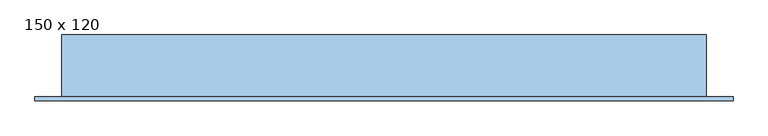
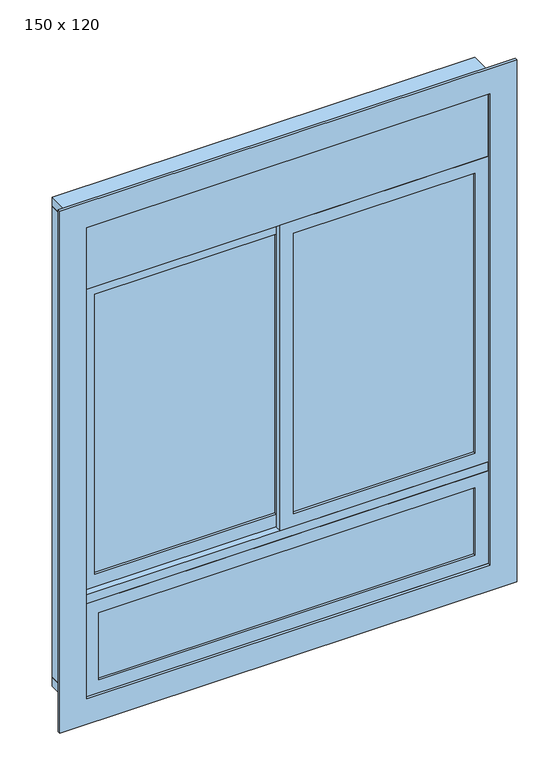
"""IFC4 building model written with IfcOpenShell, lengths in millimetres: window geometry, JANELA COM ESQUADRIA DE CORRER - 2 FOLHAS + BANDEIRA FIXA - 1 FOLHA + PERSIANA INTEGRADA : 150 x 120."""

from ifc_helpers import new_model, si_unit, frame, origin, place, context, project, spatial, polyline, outline, extrude, source, transform, mapped, element, save


def window_150_x_120_5ce5c8ce(model_context):
    return source(origin(), model_context, "Body", "SweptSolid", [
        extrude(outline(polyline([(829.4035509, -60.3758395), (829.4035509, -66.3758395), (-570.5964491, -66.3758395), (-570.5964491, -60.3758395), (829.4035509, -60.3758395)])), frame((0.0, 0.0, 650.0), z_axis=(0.0, 0.0, 1.0), x_axis=(1.0, 0.0, 0.0)), (0.0, 0.0, 1.0), 265.0),
        extrude(outline(polyline([(965.0, 879.4035509), (965.0, -620.5964491), (600.0, -620.5964491), (600.0, 879.4035509), (965.0, 879.4035509)]), holes=[polyline([(915.0, 829.4035509), (650.0, 829.4035509), (650.0, -570.5964491), (915.0, -570.5964491), (915.0, 829.4035509)])]), frame((0.0, -75.8758395, 0.0), z_axis=(0.0, 1.0, 0.0), x_axis=(0.0, 0.0, 1.0)), (0.0, 0.0, 1.0), 25.0),
        extrude(outline(polyline([(-570.5964491, -35.3758395), (104.4035509, -35.3758395), (104.4035509, -41.3758395), (-570.5964491, -41.3758395), (-570.5964491, -35.3758395)])), frame((0.0, 0.0, 1050.0), z_axis=(0.0, 0.0, 1.0), x_axis=(1.0, 0.0, 0.0)), (0.0, 0.0, 1.0), 1100.0),
        extrude(outline(polyline([(2200.0, -620.5964491), (1000.0, -620.5964491), (1000.0, 154.4035509), (2200.0, 154.4035509), (2200.0, -620.5964491)]), holes=[polyline([(2150.0, -570.5964491), (2150.0, 104.4035509), (1050.0, 104.4035509), (1050.0, -570.5964491), (2150.0, -570.5964491)])]), frame((0.0, -50.8758395, 0.0), z_axis=(0.0, 1.0, 0.0), x_axis=(0.0, 0.0, 1.0)), (0.0, 0.0, 1.0), 25.0),
        extrude(outline(polyline([(829.4035509, -60.3758395), (829.4035509, -66.3758395), (154.4035509, -66.3758395), (154.4035509, -60.3758395), (829.4035509, -60.3758395)])), frame((0.0, 0.0, 1050.0), z_axis=(0.0, 0.0, 1.0), x_axis=(1.0, 0.0, 0.0)), (0.0, 0.0, 1.0), 1100.0),
        extrude(outline(polyline([(2200.0, 879.4035509), (2200.0, 104.4035509), (1000.0, 104.4035509), (1000.0, 879.4035509), (2200.0, 879.4035509)]), holes=[polyline([(2150.0, 829.4035509), (1050.0, 829.4035509), (1050.0, 154.4035509), (2150.0, 154.4035509), (2150.0, 829.4035509)])]), frame((0.0, -75.8758395, 0.0), z_axis=(0.0, 1.0, 0.0), x_axis=(0.0, 0.0, 1.0)), (0.0, 0.0, 1.0), 25.0),
        extrude(outline(polyline([(500.0, -720.5964491), (500.0, 979.4035509), (2550.0, 979.4035509), (2550.0, -720.5964491), (500.0, -720.5964491)]), holes=[polyline([(2450.0, -620.5964491), (2450.0, 879.4035509), (600.0, 879.4035509), (600.0, -620.5964491), (2450.0, -620.5964491)])]), frame((0.0, -85.8758395, 0.0), z_axis=(0.0, 1.0, 0.0), x_axis=(0.0, 0.0, 1.0)), (0.0, 0.0, 1.0), 10.0),
        extrude(outline(polyline([(-655.5964491, 74.1241605), (-620.5964491, 74.1241605), (-620.5964491, -75.8758395), (-655.5964491, -75.8758395), (-655.5964491, 74.1241605)])), frame((0.0, 0.0, 600.0), z_axis=(0.0, 0.0, 1.0), x_axis=(1.0, 0.0, 0.0)), (0.0, 0.0, 1.0), 1850.0),
        extrude(outline(polyline([(879.4035509, 74.1241605), (914.4035509, 74.1241605), (914.4035509, -75.8758395), (879.4035509, -75.8758395), (879.4035509, 74.1241605)])), frame((0.0, 0.0, 600.0), z_axis=(0.0, 0.0, 1.0), x_axis=(1.0, 0.0, 0.0)), (0.0, 0.0, 1.0), 1850.0),
        extrude(outline(polyline([(879.4035509, -75.8758395), (-620.5964491, -75.8758395), (-620.5964491, -15.8758395), (879.4035509, -15.8758395), (879.4035509, -75.8758395)])), frame((0.0, 0.0, 965.0), z_axis=(0.0, 0.0, 1.0), x_axis=(1.0, 0.0, 0.0)), (0.0, 0.0, 1.0), 35.0),
        extrude(outline(polyline([(-655.5964491, 74.1241605), (914.4035509, 74.1241605), (914.4035509, -75.8758395), (-655.5964491, -75.8758395), (-655.5964491, 74.1241605)])), frame((0.0, 0.0, 565.0), z_axis=(0.0, 0.0, 1.0), x_axis=(1.0, 0.0, 0.0)), (0.0, 0.0, 1.0), 35.0),
        extrude(outline(polyline([(879.4035509, 53.1241605), (879.4035509, 45.1241605), (-620.5964491, 45.1241605), (-620.5964491, 53.1241605), (879.4035509, 53.1241605)])), frame((0.0, 0.0, 2330.0), z_axis=(0.0, 0.0, 1.0), x_axis=(1.0, 0.0, 0.0)), (0.0, 0.0, 1.0), 120.0),
        extrude(outline(polyline([(879.4035509, 69.1241605), (879.4035509, 64.1241605), (-620.5964491, 64.1241605), (-620.5964491, 69.1241605), (879.4035509, 69.1241605)])), frame((0.0, 0.0, 2200.0), z_axis=(0.0, 0.0, 1.0), x_axis=(1.0, 0.0, 0.0)), (0.0, 0.0, 1.0), 250.0),
        extrude(outline(polyline([(-75.8758395, 2200.0), (-75.8758395, 2450.0), (-70.8758395, 2450.0), (-70.8758395, 2205.0), (34.1241605, 2205.0), (34.1241605, 2200.0), (-75.8758395, 2200.0)])), frame((-620.5964491, 0.0, 0.0), z_axis=(1.0, 0.0, 0.0), x_axis=(0.0, 1.0, 0.0)), (0.0, 0.0, 1.0), 1500.0),
        extrude(outline(polyline([(-655.5964491, 74.1241605), (914.4035509, 74.1241605), (914.4035509, -75.8758395), (-655.5964491, -75.8758395), (-655.5964491, 74.1241605)])), frame((0.0, 0.0, 2450.0), z_axis=(0.0, 0.0, 1.0), x_axis=(1.0, 0.0, 0.0)), (0.0, 0.0, 1.0), 35.0),
        extrude(outline(polyline([(-580.5964491, 64.1241605), (-580.5964491, 59.1241605), (-620.5964491, 59.1241605), (-620.5964491, 64.1241605), (-580.5964491, 64.1241605)])), frame((0.0, 0.0, 600.0), z_axis=(0.0, 0.0, 1.0), x_axis=(1.0, 0.0, 0.0)), (0.0, 0.0, 1.0), 1850.0),
        extrude(outline(polyline([(-620.5964491, 39.1241605), (-580.5964491, 39.1241605), (-580.5964491, 34.1241605), (-620.5964491, 34.1241605), (-620.5964491, 39.1241605)])), frame((0.0, 0.0, 600.0), z_axis=(0.0, 0.0, 1.0), x_axis=(1.0, 0.0, 0.0)), (0.0, 0.0, 1.0), 1850.0),
        extrude(outline(polyline([(839.4035509, 64.1241605), (879.4035509, 64.1241605), (879.4035509, 59.1241605), (839.4035509, 59.1241605), (839.4035509, 64.1241605)])), frame((0.0, 0.0, 600.0), z_axis=(0.0, 0.0, 1.0), x_axis=(1.0, 0.0, 0.0)), (0.0, 0.0, 1.0), 1850.0),
        extrude(outline(polyline([(879.4035509, 39.1241605), (879.4035509, 34.1241605), (839.4035509, 34.1241605), (839.4035509, 39.1241605), (879.4035509, 39.1241605)])), frame((0.0, 0.0, 600.0), z_axis=(0.0, 0.0, 1.0), x_axis=(1.0, 0.0, 0.0)), (0.0, 0.0, 1.0), 1850.0),
    ])


if __name__ == "__main__":
    model = new_model("IFC4")
    model_context = context("Model", 3, world=origin())
    ifc_project = project(units=[si_unit("LENGTHUNIT", "METRE", prefix="MILLI")], contexts=[model_context])
    site = spatial("IfcSite", under=ifc_project)
    building = spatial("IfcBuilding", under=site)
    placement = place(None, origin())
    window_150_x_120_shape = window_150_x_120_5ce5c8ce(model_context)
    element("IfcWindow", 1, ObjectType="JANELA COM ESQUADRIA DE CORRER - 2 FOLHAS + BANDEIRA FIXA - 1 FOLHA + PERSIANA INTEGRADA : 150 x 120", at=placement, inside=building, context=model_context, shape_type="MappedRepresentation", body=[
        mapped(window_150_x_120_shape, transform((0.0, 0.0, 0.0), x_axis=(1.0, 0.0, 0.0), y_axis=(0.0, 1.0, 0.0), z_axis=(0.0, 0.0, 1.0))),
    ])
    save(model, "model.ifc")
